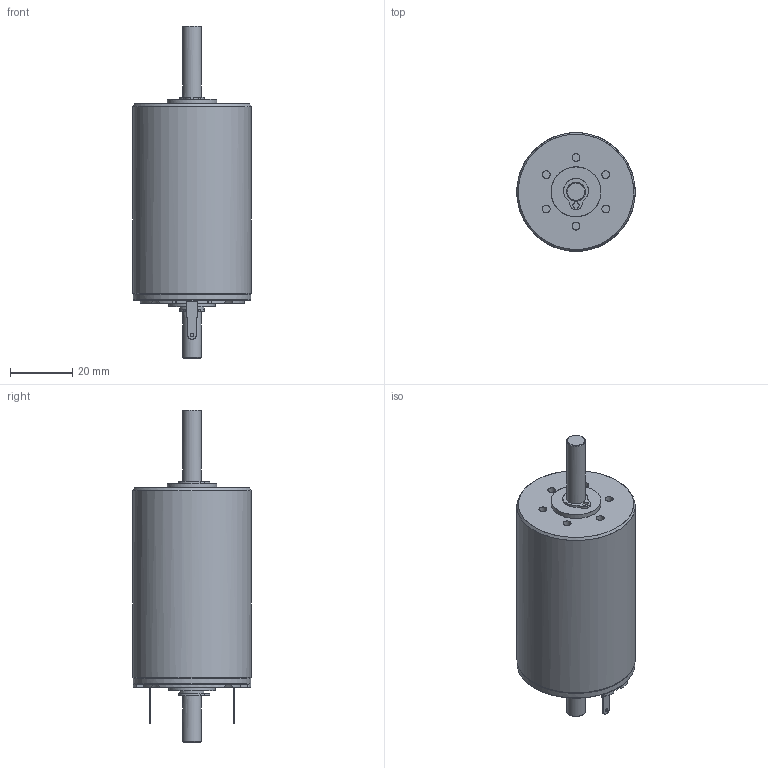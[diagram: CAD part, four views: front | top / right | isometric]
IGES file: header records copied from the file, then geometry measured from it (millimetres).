
Global section: file name: D:\Daten-Huge\PLM_Export\Huellen_aufbr\38_CR\3863.CR.igs; native system: NX V7.5; preprocessor: SIEMENS PLM Software NX 7.5; author: DR. FRITZ FAULHABER GmbH & Co. KG; organization: DR. FRITZ FAULHABER GmbH & Co. KG; date: 20130829.144815; units: millimetre
Bounding box: 38 x 37.89 x 106.5 mm (x, y, z)
Surface area: 11223.4 mm2 (no closed solid volume)
Topology: 0 solids, 0 shells, 168 faces, 1238 edges, 1189 vertices
Faces by surface type: bspline 168
